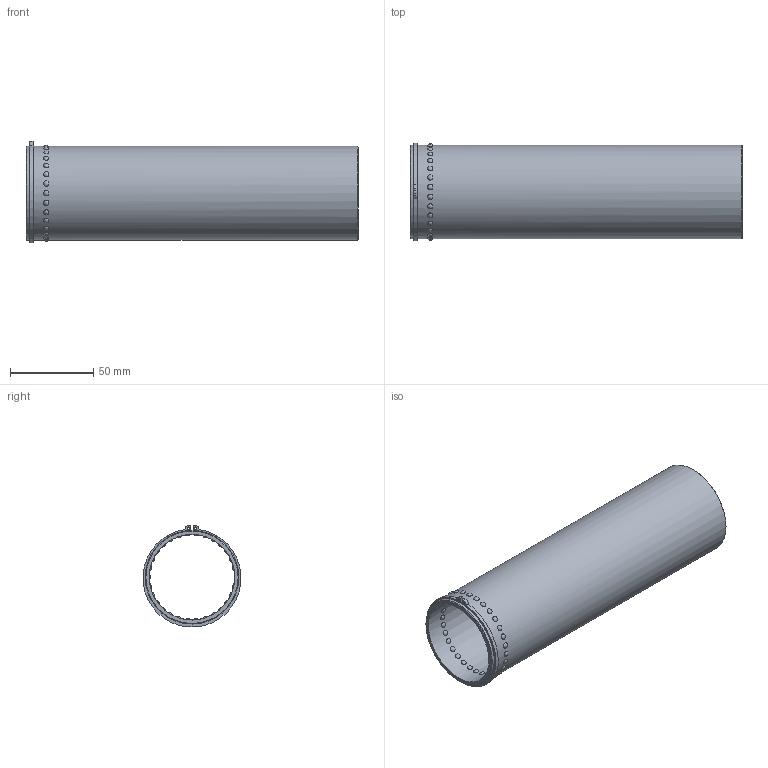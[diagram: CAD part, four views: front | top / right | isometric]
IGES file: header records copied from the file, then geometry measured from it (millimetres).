
Global section: file name: GSA50200.ipt; native system: Autodesk Inventor 2021; preprocessor: unknown; author: SM; date: 20211222.121142; units: millimetre
Bounding box: 200 x 59.01 x 61.38 mm (x, y, z)
Volume: 82139 mm3; surface area: 70268.5 mm2
Topology: 2 solids, 2 shells, 82 faces, 114 edges, 96 vertices
Faces by surface type: sphere 60, plane 10, cylinder 6, revolution 4, cone 2
Full cylindrical faces by diameter (mm): 55.4 x1, 56.4 x2
